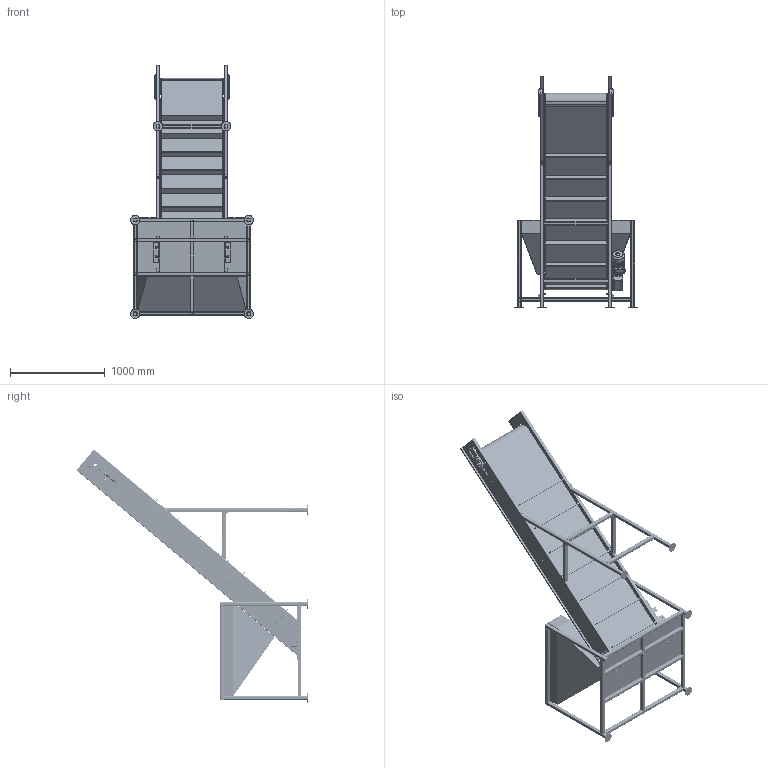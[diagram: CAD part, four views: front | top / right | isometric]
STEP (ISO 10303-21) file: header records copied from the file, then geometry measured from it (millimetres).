
FILE_DESCRIPTION(/* description */ (''),/* implementation_level */ '2;1');
FILE_NAME(/* name */ 'beltconveyor_a129_w680_l3000.stp',/* time_stamp */ '2025-01-13T22:08:38+08:00',/* author */ (''),/* organization */ (''),/* preprocessor_version */ 'ST-DEVELOPER v16.7',/* originating_system */ 'SIEMENS PLM Software NX 12.0',/* authorisation */ '');
FILE_SCHEMA (('AUTOMOTIVE_DESIGN { 1 0 10303 214 3 1 1 1 }'));
Products named in the file (35): frame -01_Default_As Machined_; flange -01; DRIVEN ROLLER-01; LED-01_Default_As Machined_; Part3_Default_As Machined_; ADJUSTOR PLATE-01; hex nut jam_am_B18.2.4.5M - Hex jam nut,  M16 x 2 --D-N; 12MM SQ ROD; t205; STUD; ADJUSTOR PLATE-02; SH-SS-HOPPER-03; socket button head cap screw_am_B18.3.4M - 6 x 1.0 x 16 SBHCS --N; IDLE SHAFT; FRAME RH; hopper final-01; DRIVEN SHAFT; Belt2; SH-SS-HOPPER-02; SH-SS-HOPPER-01; CONVEYOR CLAMP; GEARBOX; SHAARC 3PH AC MOTOR; socket head cap screw_am_B18.3.1M - 10 x 1.5 x 25 Hex SHCS -- 25NHX; formed hex screw_am_B18.2.3.2M - Formed hex screw, M12 x 1.75 x 25 --
25WN; socket button head cap screw_am_B18.3.4M - 12 x 1.75 x 30 SBHCS --N; FRAME LH; socket head cap screw_am_B18.3.1M - 8 x 1.25 x 16 Hex SHCS -- 16NHX; SH-SS-HOPPER-04; SUPPORT SH; HOPPER ASSEM; DRIVEN ROLLER ASSEM; FRAME -02; Copy of ADJUSTMENT ASSEM; beltconveyor_a129_w680_l3000
Assembly tree (73 placements, depth 3):
  beltconveyor_a129_w680_l3000
    SUPPORT SH
    SH-SS-HOPPER-04
    socket head cap screw_am_B18.3.1M - 8 x 1.25 x 16 Hex SHCS -- 16NHX  x10
    FRAME LH
    socket button head cap screw_am_B18.3.4M - 12 x 1.75 x 30 SBHCS --N  x9
    formed hex screw_am_B18.2.3.2M - Formed hex screw, M12 x 1.75 x 25 --
25WN  x8
    socket head cap screw_am_B18.3.1M - 10 x 1.5 x 25 Hex SHCS -- 25NHX  x8
    SHAARC 3PH AC MOTOR
    Copy of ADJUSTMENT ASSEM  x2
      ADJUSTOR PLATE-02
      STUD
      t205
      12MM SQ ROD
      hex nut jam_am_B18.2.4.5M - Hex jam nut,  M16 x 2 --D-N
      ADJUSTOR PLATE-01
    GEARBOX
    CONVEYOR CLAMP  x2
    SH-SS-HOPPER-01
    FRAME -02
      Part3_Default_As Machined_  x2
      LED-01_Default_As Machined_  x2
    DRIVEN ROLLER ASSEM  x2
      DRIVEN ROLLER-01
      flange -01
    SH-SS-HOPPER-02
    Belt2
    DRIVEN SHAFT
    hopper final-01
    FRAME RH
    IDLE SHAFT
    socket button head cap screw_am_B18.3.4M - 6 x 1.0 x 16 SBHCS --N
    SH-SS-HOPPER-03
    HOPPER ASSEM
      frame -01_Default_As Machined_
Bounding box: 1300 x 2439.61 x 2672.65 mm (x, y, z)
Volume: 46560593.7 mm3; surface area: 29406883.7 mm2
Topology: 172 solids, 172 shells, 4735 faces, 11803 edges, 7458 vertices
Faces by surface type: plane 1952, cylinder 1484, extrusion 615, cone 340, torus 244, bspline 74, sphere 26
Entity records: 118755 total; most frequent: CARTESIAN_POINT 43262, ORIENTED_EDGE 16068, DIRECTION 12943, EDGE_CURVE 8034, VERTEX_POINT 5211, VECTOR 4359, AXIS2_PLACEMENT_3D 4292, LINE 3744
